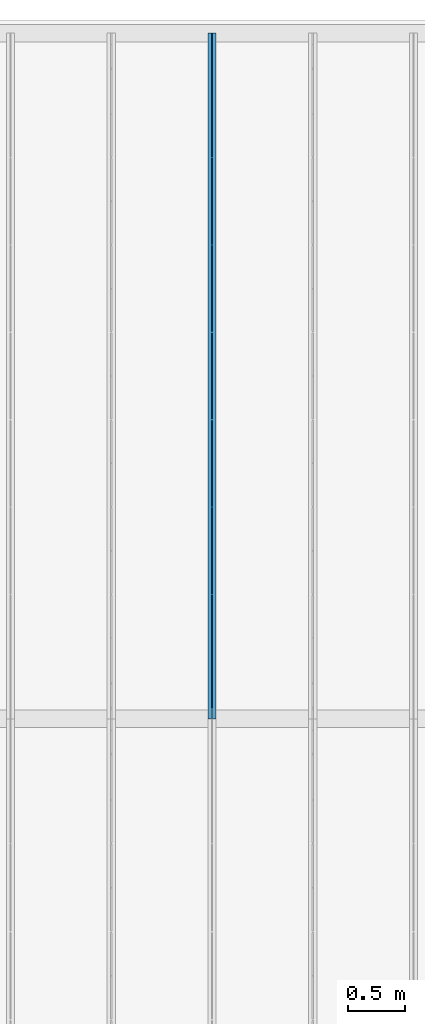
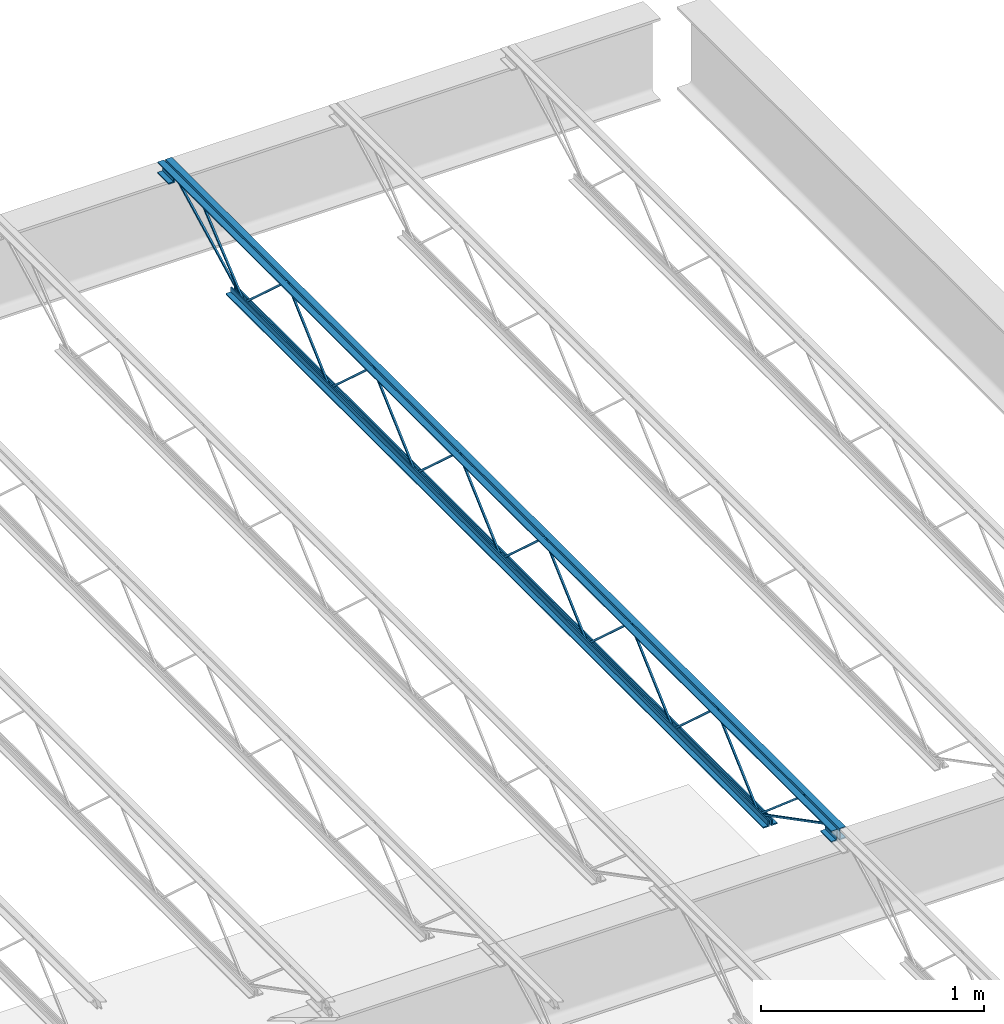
# One storey, part 53 of 75: 1 beam.
"""IFC2X3 building model written with IfcOpenShell, lengths in metres."""

import ifcopenshell
import ifcopenshell.guid

model = None  # the IFC model being written
_history = None  # IfcOwnerHistory: only IFC2X3 demands one
_inside = {}  # id of a spatial element -> (the spatial element, [elements in it])
_under = {}  # id of a project, library or spatial element -> (it, [spatial elements below it])
_declared = {}  # id of a project -> (the project, [libraries it declares])
_typed = {}  # id of a type object -> (the type object, [elements of that type])
_made_of = {}  # id of a material, layer set ... -> (it, [elements and type objects made of it])


def new_model(schema):
    """Start an empty IFC model of exactly this schema.

    Asked for "IFC4X3", IfcOpenShell would pick the latest addendum, in which some entities
    have other attributes; the version numbers below select the first issue.
    IFC2X3 requires an IfcOwnerHistory on every rooted entity: one is made here for all.
    """
    global model, _history
    if schema == "IFC4X3":
        model = ifcopenshell.file(schema_version=(4, 3, 0, 0))
    else:
        model = ifcopenshell.file(schema=schema)
    _inside.clear()
    _under.clear()
    _declared.clear()
    _typed.clear()
    _made_of.clear()
    _history = None
    if model.schema == "IFC2X3":
        org = make("IfcOrganization", Name="unknown")
        user = make(
            "IfcPersonAndOrganization",
            ThePerson=make("IfcPerson", FamilyName="unknown"),
            TheOrganization=org,
        )
        app = make(
            "IfcApplication",
            ApplicationDeveloper=org,
            Version="unknown",
            ApplicationFullName="unknown",
            ApplicationIdentifier="unknown",
        )
        _history = make(
            "IfcOwnerHistory",
            OwningUser=user,
            OwningApplication=app,
            ChangeAction="ADDED",
            CreationDate=0,
        )
    return model


def make(cls, **values):
    """One entity of the class cls with the attributes given. An attribute that is None is left unset."""
    return model.create_entity(
        cls, **{name: value for name, value in values.items() if value is not None}
    )


def entity(cls, *values):
    """Any entity or typed value of the class cls, its attributes in the order of the schema. None: left unset."""
    e = model.create_entity(cls)
    for i, value in enumerate(values):
        if value is not None:
            e[i] = value
    return e


def rooted(cls, **values):
    """An entity with a GlobalId (a new one), such as an element, a storey or a relation."""
    return make(cls, GlobalId=ifcopenshell.guid.new(), OwnerHistory=_history, **values)


def si_unit(unit_type, name, prefix=None):
    """IfcSIUnit, for example si_unit("LENGTHUNIT", "METRE", prefix="MILLI")."""
    return make("IfcSIUnit", UnitType=unit_type, Prefix=prefix, Name=name)


def converted_unit(unit_type, name, factor, base, dimensions=None, offset=None):
    """IfcConversionBasedUnit, such as the inch: factor (a typed value) times the base unit."""
    return make(
        "IfcConversionBasedUnit"
        if offset is None
        else "IfcConversionBasedUnitWithOffset",
        ConversionOffset=offset,
        Dimensions=None
        if dimensions is None
        else entity("IfcDimensionalExponents", *dimensions),
        UnitType=unit_type,
        Name=name,
        ConversionFactor=make(
            "IfcMeasureWithUnit", ValueComponent=factor, UnitComponent=base
        ),
    )


def assignment(units):
    """IfcUnitAssignment: the units of a project."""
    return None if units is None else make("IfcUnitAssignment", Units=units)


def point(xyz):
    """IfcCartesianPoint."""
    return None if xyz is None else make("IfcCartesianPoint", Coordinates=xyz)


def direction(xyz):
    """IfcDirection."""
    return None if xyz is None else make("IfcDirection", DirectionRatios=xyz)


def frame(location, z_axis=None, x_axis=None):
    """IfcAxis2Placement3D, a coordinate frame: its origin and axes. An axis left out is left unset."""
    return make(
        "IfcAxis2Placement3D",
        Location=point(location),
        Axis=direction(z_axis),
        RefDirection=direction(x_axis),
    )


def origin():
    """The frame at (0, 0, 0) with its axes left unset."""
    return frame((0.0, 0.0, 0.0))


def place(relative_to, where):
    """IfcLocalPlacement: puts the frame where relative to a parent placement (None: the world)."""
    return make(
        "IfcLocalPlacement", PlacementRelTo=relative_to, RelativePlacement=where
    )


def context(
    kind, dimensions, precision=None, world=None, true_north=None, identifier=None
):
    """IfcGeometricRepresentationContext, for example the 3D "Model" context."""
    return make(
        "IfcGeometricRepresentationContext",
        ContextIdentifier=identifier,
        ContextType=kind,
        CoordinateSpaceDimension=dimensions,
        Precision=precision,
        WorldCoordinateSystem=world,
        TrueNorth=true_north,
    )


def project(units=None, contexts=None):
    """IfcProject with its units and contexts."""
    return rooted(
        "IfcProject",
        Name="project",
        RepresentationContexts=contexts,
        UnitsInContext=assignment(units),
    )


def spatial(cls, under=None, at=None, **own):
    """A site, building, storey or space (cls), placed at a placement, below another one or the project."""
    s = rooted(cls, ObjectPlacement=at, **own)
    if under is not None:
        _under.setdefault(under.id(), (under, []))[1].append(s)
    return s


def faces_of(points, faces, orient=None, outer=None):
    """IfcFace entities. A face is a list of loops; a loop is a list of indices into points, from 0.

    orient and outer hold one flag for each loop. By default every Orientation is true, the
    first loop of a face is its IfcFaceOuterBound and the others are IfcFaceBound.
    """
    made = []
    for i, loops in enumerate(faces):
        bounds = []
        for j, loop in enumerate(loops):
            is_outer = j == 0 if outer is None else outer[i][j]
            bounds.append(
                make(
                    "IfcFaceOuterBound" if is_outer else "IfcFaceBound",
                    Bound=make("IfcPolyLoop", Polygon=[points[k] for k in loop]),
                    Orientation=True if orient is None else orient[i][j],
                )
            )
        made.append(make("IfcFace", Bounds=bounds))
    return made


def face_set(faces, orient=None, outer=None):
    """The faces of one IfcConnectedFaceSet. surface_model builds it on its shared points."""
    return ("IfcConnectedFaceSet", faces, orient, outer)


def surface_model(cls, points, shells):
    """IfcFaceBasedSurfaceModel or IfcShellBasedSurfaceModel (cls): surfaces that need not close."""
    shared = [point(p) for p in points]
    made = [make(c, CfsFaces=faces_of(shared, fs, o, b)) for c, fs, o, b in shells]
    if cls == "IfcFaceBasedSurfaceModel":
        return make(cls, FbsmFaces=made)
    return make(cls, SbsmBoundary=made)


def shape(context_of_items, identifier, shape_type, items):
    """IfcShapeRepresentation: the items that make up one representation, for example the "Body"."""
    return make(
        "IfcShapeRepresentation",
        ContextOfItems=context_of_items,
        RepresentationIdentifier=identifier,
        RepresentationType=shape_type,
        Items=items,
    )


def made_of(thing, what):
    """Note that an element or type object is made of a material, layer set ...; save() writes the relation."""
    if what is not None:
        _made_of.setdefault(what.id(), (what, []))[1].append(thing)
    return thing


def element(
    cls,
    number,
    at=None,
    inside=None,
    cuts=None,
    type_object=None,
    material=None,
    context=None,
    identifier="Body",
    shape_type=None,
    held_by="IfcProductDefinitionShape",
    body=None,
    shapes=None,
    **own,
):
    """One element of the class cls, such as IfcWall. Its Tag is "e" and its number.

    at: its placement. inside: the storey or other place that contains it. cuts: it is an
    opening in that element (IfcRelVoidsElement). A single representation is given by context,
    identifier, shape_type and body (its items); several are given by shapes. held_by: the class
    of the entity that holds the representations. save() writes the other relations.
    """
    e = rooted(cls, Tag="e%d" % number, ObjectPlacement=at, **own)
    if body is not None:
        shapes = [shape(context, identifier, shape_type, body)]
    if shapes is not None:
        e.Representation = make(held_by, Representations=shapes)
    if inside is not None:
        _inside.setdefault(inside.id(), (inside, []))[1].append(e)
    if cuts is not None:
        rooted(
            "IfcRelVoidsElement", RelatingBuildingElement=cuts, RelatedOpeningElement=e
        )
    if type_object is not None:
        _typed.setdefault(type_object.id(), (type_object, []))[1].append(e)
    return made_of(e, material)


def aggregate(whole, parts):
    """IfcRelAggregates: a whole, such as a stair, and the parts it consists of."""
    return rooted("IfcRelAggregates", RelatingObject=whole, RelatedObjects=parts)


def save(model, path):
    """Write the relations noted so far, then the file.

    IfcRelAggregates (storeys below a building ...), IfcRelContainedInSpatialStructure (elements
    in a storey), IfcRelDefinesByType, IfcRelAssociatesMaterial and IfcRelDeclares: one each for
    every whole, place, type object, material and project.
    """
    for whole, parts in _under.values():
        aggregate(whole, parts)
    for where, things in _inside.values():
        rooted(
            "IfcRelContainedInSpatialStructure",
            RelatedElements=things,
            RelatingStructure=where,
        )
    for kind, things in _typed.values():
        rooted("IfcRelDefinesByType", RelatedObjects=things, RelatingType=kind)
    for what, things in _made_of.values():
        rooted("IfcRelAssociatesMaterial", RelatedObjects=things, RelatingMaterial=what)
    for by, libraries in _declared.values():
        rooted("IfcRelDeclares", RelatingContext=by, RelatedDefinitions=libraries)
    model.write(path)


model = new_model("IFC2X3")

# Units and contexts
model_context = context("Model", 3, precision=1e-09, world=origin())
plan_context = context("Plan", 3, precision=1e-09, world=origin())
ifc_project = project(units=[si_unit("LENGTHUNIT", "METRE"), si_unit("AREAUNIT", "SQUARE_METRE"), si_unit("VOLUMEUNIT", "CUBIC_METRE"), converted_unit("PLANEANGLEUNIT", "DEGREE", entity("IfcRatioMeasure", 0.01745329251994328), si_unit("PLANEANGLEUNIT", "RADIAN"), dimensions=[0, 0, 0, 0, 0, 0, 0]), si_unit("TIMEUNIT", "SECOND")], contexts=[model_context, plan_context])

# Site, building, storey
site_placement = place(None, origin())
site = spatial("IfcSite", under=ifc_project, at=site_placement, Name="Default", CompositionType="ELEMENT")
building_placement = place(site_placement, origin())
building = spatial("IfcBuilding", under=site, at=building_placement, CompositionType="ELEMENT")
storey_placement = place(building_placement, origin())
storey = spatial("IfcBuildingStorey", under=building, at=storey_placement, Name="First Floor", CompositionType="ELEMENT", Elevation=-3.531500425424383e-13)

# Beam
beam_placement = place(storey_placement, frame((-29.14299999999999, 50.09000000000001, 4.112000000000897), z_axis=(0.0, 0.0, 1.0), x_axis=(-1.0, 0.0, 0.0)))
element("IfcBeam", 1, at=beam_placement, inside=storey, Name="M_K-Series Bar Joist-Rod Web:14K1:14K1", ObjectType="M_K-Series Bar Joist-Rod Web:14K1", context=model_context, shape_type="SurfaceModel", body=[
    surface_model("IfcFaceBasedSurfaceModel", [(-0.03200000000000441, -2.254000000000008, 0.01110000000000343), (-0.04150000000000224, -2.254000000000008, 0.01110000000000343), (-0.04150000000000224, -2.254000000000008, 0.001600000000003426), (-0.03200000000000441, -2.254000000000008, 0.001600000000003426), (-0.04150000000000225, -2.252655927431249, 0.01110000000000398), (-0.03200000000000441, -2.252655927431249, 0.01110000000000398), (-0.04150000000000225, -2.248994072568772, 0.001600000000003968), (-0.04150000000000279, -1.869844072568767, 0.3449000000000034), (-0.0415000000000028, -1.86715592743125, 0.3449000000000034), (-0.04149999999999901, -1.48800592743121, 0.001600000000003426), (-0.04149999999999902, -1.483000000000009, 0.001600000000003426), (-0.04150000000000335, -1.483000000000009, 0.01110000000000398), (-0.04150000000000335, -1.484344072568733, 0.01110000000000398), (-0.04150000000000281, -1.863494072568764, 0.3544000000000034), (-0.04150000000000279, -1.873505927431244, 0.3544000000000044), (-0.03200000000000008, -2.248994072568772, 0.001600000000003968), (-0.03200000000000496, -1.869844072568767, 0.3449000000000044), (-0.03200000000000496, -1.86715592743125, 0.3449000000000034), (-0.0320000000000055, -1.48800592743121, 0.001600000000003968), (-0.03200000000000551, -1.483000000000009, 0.001600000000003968), (-0.03200000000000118, -1.483000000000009, 0.01110000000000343), (-0.03200000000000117, -1.484344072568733, 0.01110000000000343), (-0.03200000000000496, -1.863494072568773, 0.3544000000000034), (-0.03200000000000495, -1.873505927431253, 0.3544000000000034), (-0.0320000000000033, -3.025000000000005, 0.01110000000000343), (-0.04150000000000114, -3.025000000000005, 0.01110000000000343), (-0.04150000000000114, -3.025000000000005, 0.001600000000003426), (-0.0320000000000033, -3.025000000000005, 0.001600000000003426), (-0.04150000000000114, -3.023655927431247, 0.01110000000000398), (-0.0320000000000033, -3.023655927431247, 0.01110000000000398), (-0.04150000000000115, -3.01999407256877, 0.001600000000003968), (-0.04150000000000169, -2.640844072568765, 0.3449000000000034), (-0.04150000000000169, -2.638155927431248, 0.3449000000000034), (-0.04150000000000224, -2.259005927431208, 0.001600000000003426), (-0.04150000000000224, -2.254000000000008, 0.01110000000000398), (-0.04150000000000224, -2.255344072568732, 0.01110000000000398), (-0.0415000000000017, -2.634494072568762, 0.3544000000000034), (-0.04150000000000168, -2.644505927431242, 0.3544000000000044), (-0.03199999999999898, -3.01999407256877, 0.001600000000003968), (-0.03200000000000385, -2.640844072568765, 0.3449000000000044), (-0.03200000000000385, -2.638155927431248, 0.3449000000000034), (-0.03200000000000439, -2.259005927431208, 0.001600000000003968), (-0.03200000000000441, -2.254000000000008, 0.001600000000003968), (-0.0320000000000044, -2.255344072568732, 0.01110000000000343), (-0.03200000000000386, -2.634494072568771, 0.3544000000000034), (-0.03200000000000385, -2.644505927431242, 0.3544000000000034), (-0.03200000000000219, -3.796000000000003, 0.01110000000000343), (-0.04150000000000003, -3.796000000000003, 0.01110000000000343), (-0.04150000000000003, -3.796000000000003, 0.001600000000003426), (-0.03200000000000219, -3.796000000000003, 0.001600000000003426), (-0.04150000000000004, -3.794655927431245, 0.01110000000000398), (-0.03200000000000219, -3.794655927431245, 0.01110000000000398), (-0.04150000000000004, -3.790994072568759, 0.001600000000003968), (-0.04150000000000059, -3.411844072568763, 0.3449000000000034), (-0.04150000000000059, -3.409155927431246, 0.3449000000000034), (-0.04150000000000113, -3.030005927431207, 0.001600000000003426), (-0.04150000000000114, -3.025000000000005, 0.01110000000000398), (-0.04150000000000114, -3.026344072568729, 0.01110000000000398), (-0.0415000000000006, -3.40549407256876, 0.3544000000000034), (-0.04150000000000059, -3.41550592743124, 0.3544000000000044), (-0.03199999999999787, -3.790994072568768, 0.001600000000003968), (-0.03200000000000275, -3.411844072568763, 0.3449000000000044), (-0.03200000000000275, -3.409155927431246, 0.3449000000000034), (-0.03200000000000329, -3.030005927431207, 0.001600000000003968), (-0.0320000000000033, -3.025000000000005, 0.001600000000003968), (-0.0320000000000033, -3.026344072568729, 0.01110000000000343), (-0.03200000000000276, -3.40549407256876, 0.3544000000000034), (-0.03200000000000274, -3.41550592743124, 0.3544000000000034), (-0.03200000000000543, -4.567000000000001, 0.01110000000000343), (-0.04150000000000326, -4.567000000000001, 0.01110000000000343), (-0.04150000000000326, -4.567000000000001, 0.001600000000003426), (-0.03200000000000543, -4.567000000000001, 0.001600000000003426), (-0.04150000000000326, -4.565655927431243, 0.01110000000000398), (-0.03200000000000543, -4.565655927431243, 0.01110000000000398), (-0.04150000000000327, -4.561994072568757, 0.001600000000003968), (-0.04149999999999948, -4.182844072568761, 0.3449000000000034), (-0.04149999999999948, -4.180155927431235, 0.3449000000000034), (-0.04150000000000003, -3.801005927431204, 0.001600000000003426), (-0.04150000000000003, -3.795999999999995, 0.001600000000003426), (-0.04150000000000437, -3.796000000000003, 0.01110000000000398), (-0.04150000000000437, -3.797344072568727, 0.01110000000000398), (-0.04150000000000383, -4.176494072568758, 0.3544000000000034), (-0.04150000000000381, -4.186505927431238, 0.3544000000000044), (-0.0320000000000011, -4.561994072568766, 0.001600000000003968), (-0.03200000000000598, -4.182844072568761, 0.3449000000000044), (-0.03200000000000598, -4.180155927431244, 0.3449000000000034), (-0.03200000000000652, -3.801005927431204, 0.001600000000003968), (-0.03200000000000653, -3.796000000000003, 0.001600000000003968), (-0.03200000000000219, -3.795999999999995, 0.01110000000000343), (-0.03200000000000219, -3.797344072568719, 0.01110000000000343), (-0.03200000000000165, -4.176494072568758, 0.3544000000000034), (-0.03200000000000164, -4.186505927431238, 0.3544000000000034), (-0.03200000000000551, -1.483000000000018, 0.01109999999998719), (-0.04150000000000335, -1.483000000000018, 0.01109999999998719), (-0.04150000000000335, -1.483000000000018, 0.001599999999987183), (-0.03200000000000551, -1.483000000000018, 0.001599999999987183), (-0.04149999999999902, -1.48165592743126, 0.01109999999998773), (-0.03200000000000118, -1.48165592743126, 0.01109999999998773), (-0.04150000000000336, -1.477994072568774, 0.001599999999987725), (-0.0415000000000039, -1.098844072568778, 0.3448999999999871), (-0.0415000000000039, -1.096155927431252, 0.3448999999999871), (-0.04150000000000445, -0.717005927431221, 0.001599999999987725), (-0.04150000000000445, -0.7120000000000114, 0.001599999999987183), (-0.04150000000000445, -0.7120000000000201, 0.01109999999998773), (-0.04150000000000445, -0.713344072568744, 0.01109999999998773), (-0.04150000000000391, -1.092494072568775, 0.3543999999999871), (-0.04150000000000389, -1.102505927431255, 0.3543999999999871), (-0.03200000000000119, -1.477994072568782, 0.001599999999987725), (-0.03200000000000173, -1.098844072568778, 0.3448999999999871), (-0.03200000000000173, -1.09615592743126, 0.3448999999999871), (-0.03200000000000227, -0.717005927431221, 0.001599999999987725), (-0.03200000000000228, -0.7120000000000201, 0.001599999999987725), (-0.03200000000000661, -0.7120000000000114, 0.01109999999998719), (-0.03200000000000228, -0.7133440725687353, 0.01109999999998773), (-0.03200000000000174, -1.092494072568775, 0.3543999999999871), (-0.03200000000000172, -1.102505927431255, 0.3543999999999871), (-0.03200000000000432, -5.33799999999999, 0.01110000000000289), (-0.04150000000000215, -5.33799999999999, 0.01110000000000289), (-0.04150000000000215, -5.33799999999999, 0.001600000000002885), (-0.03200000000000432, -5.33799999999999, 0.001600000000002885), (-0.04150000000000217, -5.336655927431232, 0.01110000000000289), (-0.03200000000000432, -5.336655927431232, 0.01110000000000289), (-0.04150000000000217, -5.332994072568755, 0.001600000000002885), (-0.04150000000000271, -4.95384407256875, 0.3449000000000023), (-0.04150000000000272, -4.951155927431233, 0.3449000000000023), (-0.04150000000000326, -4.572005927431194, 0.001600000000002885), (-0.04150000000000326, -4.566999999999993, 0.001600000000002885), (-0.04150000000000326, -4.566999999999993, 0.01110000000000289), (-0.04150000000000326, -4.568344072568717, 0.01110000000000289), (-0.04150000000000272, -4.947494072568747, 0.3544000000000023), (-0.04150000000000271, -4.957505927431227, 0.3544000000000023), (-0.03199999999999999, -5.332994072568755, 0.001600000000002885), (-0.03200000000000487, -4.95384407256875, 0.3449000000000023), (-0.03200000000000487, -4.951155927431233, 0.3449000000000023), (-0.03200000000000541, -4.572005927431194, 0.001600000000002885), (-0.03200000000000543, -4.566999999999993, 0.001600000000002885), (-0.03200000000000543, -4.566999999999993, 0.01110000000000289), (-0.03200000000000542, -4.568344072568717, 0.01110000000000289), (-0.03200000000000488, -4.947494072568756, 0.3544000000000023), (-0.03200000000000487, -4.957505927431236, 0.3544000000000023), (-0.04150000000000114, 0.0, 0.3559999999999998), (-0.07350000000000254, 0.0, 0.3559999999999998), (-0.07350000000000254, 0.0, 0.349499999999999), (-0.04799999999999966, 0.0, 0.349499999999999), (-0.04799999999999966, 0.0, 0.3239999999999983), (-0.04150000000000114, 0.0, 0.3239999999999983), (-0.0320000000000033, 0.0, 0.3559999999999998), (-0.0320000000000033, 0.0, 0.3239999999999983), (-0.02550000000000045, 0.0, 0.3239999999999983), (-0.02550000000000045, 0.0, 0.349499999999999), (0.0, 0.0, 0.349499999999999), (0.0, 0.0, 0.3559999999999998), (-0.04150000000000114, -6.049999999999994, 0.3559999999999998), (-0.07350000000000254, -6.049999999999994, 0.3559999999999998), (-0.07350000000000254, -6.049999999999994, 0.349499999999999), (-0.04799999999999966, -6.049999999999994, 0.349499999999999), (-0.04799999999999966, -6.049999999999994, 0.3239999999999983), (-0.04150000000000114, -6.049999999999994, 0.3239999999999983), (-0.0320000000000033, -6.049999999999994, 0.3559999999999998), (-0.0320000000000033, -6.049999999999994, 0.3239999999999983), (-0.02550000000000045, -6.049999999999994, 0.3239999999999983), (-0.02550000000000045, -6.049999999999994, 0.349499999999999), (0.0, -6.049999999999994, 0.349499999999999), (0.0, -6.049999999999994, 0.3559999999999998), (-0.03200000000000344, -5.950000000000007, 0.2924999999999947), (0.0, -5.950000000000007, 0.2924999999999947), (0.0, -5.950000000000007, 0.2989999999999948), (-0.02550000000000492, -5.950000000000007, 0.2989999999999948), (-0.02550000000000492, -5.950000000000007, 0.3239999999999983), (-0.03200000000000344, -5.950000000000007, 0.3239999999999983), (-0.07350000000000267, -5.950000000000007, 0.2924999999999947), (-0.04150000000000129, -5.950000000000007, 0.2924999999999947), (-0.04150000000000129, -5.950000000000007, 0.3239999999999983), (-0.04800000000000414, -5.950000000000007, 0.3239999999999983), (-0.04800000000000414, -5.950000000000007, 0.2989999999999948), (-0.07350000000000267, -5.950000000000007, 0.2989999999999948), (-0.0320000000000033, -6.049999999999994, 0.2924999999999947), (0.0, -6.049999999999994, 0.2924999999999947), (0.0, -6.049999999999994, 0.2989999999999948), (-0.02550000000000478, -6.049999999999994, 0.2989999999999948), (-0.02550000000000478, -6.049999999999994, 0.3239999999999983), (-0.07350000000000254, -6.049999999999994, 0.2924999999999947), (-0.04150000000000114, -6.049999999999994, 0.2924999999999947), (-0.048000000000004, -6.049999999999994, 0.3239999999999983), (-0.048000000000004, -6.049999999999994, 0.2989999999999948), (-0.07350000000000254, -6.049999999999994, 0.2989999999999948), (-0.04150000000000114, 0.0, 0.2924999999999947), (-0.048000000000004, 0.0, 0.3239999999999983), (-0.048000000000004, 0.0, 0.2989999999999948), (-0.07350000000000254, 0.0, 0.2989999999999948), (-0.07350000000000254, 0.0, 0.2924999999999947), (-0.0320000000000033, 0.0, 0.2924999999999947), (0.0, 0.0, 0.2924999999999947), (0.0, 0.0, 0.2989999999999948), (-0.02550000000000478, 0.0, 0.2989999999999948), (-0.02550000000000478, 0.0, 0.3239999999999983), (-0.04150000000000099, -0.0999999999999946, 0.2924999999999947), (-0.04150000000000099, -0.0999999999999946, 0.3239999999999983), (-0.04800000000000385, -0.0999999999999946, 0.3239999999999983), (-0.04800000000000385, -0.0999999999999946, 0.2989999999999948), (-0.07350000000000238, -0.0999999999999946, 0.2989999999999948), (-0.07350000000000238, -0.0999999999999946, 0.2924999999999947), (-0.03200000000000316, -0.0999999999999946, 0.2924999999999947), (0.0, -0.0999999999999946, 0.2924999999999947), (0.0, -0.0999999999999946, 0.2989999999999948), (-0.02550000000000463, -0.0999999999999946, 0.2989999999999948), (-0.02550000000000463, -0.0999999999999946, 0.3239999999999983), (-0.03200000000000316, -0.0999999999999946, 0.3239999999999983), (-0.04150000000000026, -0.6119999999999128, 0.0), (-0.04150000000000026, -0.6119999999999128, 0.03199999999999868), (-0.04799999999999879, -0.6119999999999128, 0.03199999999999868), (-0.04799999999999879, -0.6119999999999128, 0.006499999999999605), (-0.07350000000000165, -0.6119999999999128, 0.006499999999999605), (-0.07350000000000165, -0.6119999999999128, 0.0), (-0.03200000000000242, -0.6119999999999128, 0.0), (0.0, -0.6119999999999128, 0.0), (0.0, -0.6119999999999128, 0.006499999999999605), (-0.02549999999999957, -0.6119999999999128, 0.006499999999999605), (-0.02549999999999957, -0.6119999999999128, 0.03199999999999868), (-0.03200000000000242, -0.6119999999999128, 0.03199999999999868), (-0.04150000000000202, -5.437999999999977, 0.0), (-0.04150000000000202, -5.437999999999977, 0.03199999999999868), (-0.04800000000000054, -5.437999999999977, 0.03199999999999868), (-0.04800000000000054, -5.437999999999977, 0.006499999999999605), (-0.07350000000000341, -5.437999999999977, 0.006499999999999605), (-0.07350000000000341, -5.437999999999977, 0.0), (-0.03200000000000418, -5.437999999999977, 0.0), (0.0, -5.437999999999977, 0.0), (0.0, -5.437999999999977, 0.006499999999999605), (-0.02550000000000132, -5.437999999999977, 0.006499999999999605), (-0.02550000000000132, -5.437999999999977, 0.03199999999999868), (-0.03200000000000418, -5.437999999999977, 0.03199999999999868), (-0.03200000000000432, -5.335811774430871, 0.01056594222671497), (-0.04150000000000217, -5.335811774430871, 0.01056594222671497), (-0.04150000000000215, -5.34018822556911, 0.002134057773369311), (-0.03200000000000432, -5.34018822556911, 0.002134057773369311), (-0.03200000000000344, -5.948840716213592, 0.3287499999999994), (-0.0320000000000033, -6.049999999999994, 0.3287499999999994), (-0.0320000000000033, -6.049999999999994, 0.3192499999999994), (-0.03200000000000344, -5.951159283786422, 0.3192499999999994), (-0.04150000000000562, -5.951159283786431, 0.3192499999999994), (-0.04150000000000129, -5.948840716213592, 0.3287499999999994), (-0.04150000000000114, -6.049999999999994, 0.3287499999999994), (-0.04150000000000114, -6.049999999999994, 0.3192499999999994), (-0.03200000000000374, -5.743457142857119, 0.341700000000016), (-0.04150000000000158, -5.743457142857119, 0.341700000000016), (-0.04150000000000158, -5.743457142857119, 0.332200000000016), (-0.03200000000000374, -5.743457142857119, 0.332200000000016), (-0.0415000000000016, -5.729024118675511, 0.341700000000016), (-0.03200000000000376, -5.729024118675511, 0.341700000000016), (-0.0415000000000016, -5.732490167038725, 0.332200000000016), (-0.04150000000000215, -5.341058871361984, 0.002716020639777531), (-0.04150000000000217, -5.334941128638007, 0.009983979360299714), (-0.03199999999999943, -5.732490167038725, 0.332200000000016), (-0.03200000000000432, -5.341058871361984, 0.002716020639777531), (-0.03200000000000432, -5.334941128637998, 0.009983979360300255), (-0.03200000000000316, -0.09781177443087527, 0.3197840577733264), (-0.03200000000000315, -0.1021882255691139, 0.3282159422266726), (-0.04150000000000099, -0.1021882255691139, 0.3282159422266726), (-0.04150000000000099, -0.09781177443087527, 0.3197840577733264), (-0.03200000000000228, -0.7098117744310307, 0.002134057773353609), (-0.03200000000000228, -0.7141882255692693, 0.01056594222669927), (-0.04150000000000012, -0.7141882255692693, 0.01056594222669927), (-0.04150000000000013, -0.7098117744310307, 0.002134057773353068), (-0.03200000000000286, -0.3088922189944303, 0.3460454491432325), (-0.03200000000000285, -0.3150792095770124, 0.3532545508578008), (-0.04150000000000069, -0.3150792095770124, 0.3532545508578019), (-0.0415000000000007, -0.3088922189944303, 0.3460454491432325), (-0.03200000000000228, -0.7089065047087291, 0.002745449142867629), (-0.03200000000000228, -0.715093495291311, 0.009954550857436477), (-0.04150000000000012, -0.715093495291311, 0.009954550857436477), (-0.04150000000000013, -0.7089065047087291, 0.002745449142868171)], [face_set([[[0, 1, 2, 3]], [[1, 4, 5, 0]], [[2, 6, 7, 8, 9, 10, 11, 12, 13, 14, 4, 1]], [[3, 2, 6, 15]], [[0, 3, 15, 16, 17, 18, 19, 20, 21, 22, 23, 5]], [[4, 5, 23, 14]], [[15, 16, 7, 6]], [[14, 13, 22, 23]], [[16, 7, 8, 17]], [[13, 12, 21, 22]], [[17, 8, 9, 18]], [[20, 11, 10, 19]], [[12, 11, 20, 21]], [[18, 9, 10, 19]]]), face_set([[[24, 25, 26, 27]], [[25, 28, 29, 24]], [[26, 30, 31, 32, 33, 2, 34, 35, 36, 37, 28, 25]], [[27, 26, 30, 38]], [[24, 27, 38, 39, 40, 41, 42, 0, 43, 44, 45, 29]], [[28, 29, 45, 37]], [[38, 39, 31, 30]], [[37, 36, 44, 45]], [[39, 31, 32, 40]], [[36, 35, 43, 44]], [[40, 32, 33, 41]], [[0, 34, 2, 42]], [[35, 34, 0, 43]], [[41, 33, 2, 42]]]), face_set([[[46, 47, 48, 49]], [[47, 50, 51, 46]], [[48, 52, 53, 54, 55, 26, 56, 57, 58, 59, 50, 47]], [[49, 48, 52, 60]], [[46, 49, 60, 61, 62, 63, 64, 24, 65, 66, 67, 51]], [[50, 51, 67, 59]], [[60, 61, 53, 52]], [[59, 58, 66, 67]], [[61, 53, 54, 62]], [[58, 57, 65, 66]], [[62, 54, 55, 63]], [[24, 56, 26, 64]], [[57, 56, 24, 65]], [[63, 55, 26, 64]]]), face_set([[[68, 69, 70, 71]], [[69, 72, 73, 68]], [[70, 74, 75, 76, 77, 78, 79, 80, 81, 82, 72, 69]], [[71, 70, 74, 83]], [[68, 71, 83, 84, 85, 86, 87, 88, 89, 90, 91, 73]], [[72, 73, 91, 82]], [[83, 84, 75, 74]], [[82, 81, 90, 91]], [[84, 75, 76, 85]], [[81, 80, 89, 90]], [[85, 76, 77, 86]], [[88, 79, 78, 87]], [[80, 79, 88, 89]], [[86, 77, 78, 87]]]), face_set([[[92, 93, 94, 95]], [[93, 96, 97, 92]], [[94, 98, 99, 100, 101, 102, 103, 104, 105, 106, 96, 93]], [[95, 94, 98, 107]], [[92, 95, 107, 108, 109, 110, 111, 112, 113, 114, 115, 97]], [[96, 97, 115, 106]], [[107, 108, 99, 98]], [[106, 105, 114, 115]], [[108, 99, 100, 109]], [[105, 104, 113, 114]], [[109, 100, 101, 110]], [[112, 103, 102, 111]], [[104, 103, 112, 113]], [[110, 101, 102, 111]]]), face_set([[[116, 117, 118, 119]], [[117, 120, 121, 116]], [[118, 122, 123, 124, 125, 126, 127, 128, 129, 130, 120, 117]], [[119, 118, 122, 131]], [[116, 119, 131, 132, 133, 134, 135, 136, 137, 138, 139, 121]], [[120, 121, 139, 130]], [[131, 132, 123, 122]], [[130, 129, 138, 139]], [[132, 123, 124, 133]], [[129, 128, 137, 138]], [[133, 124, 125, 134]], [[136, 127, 126, 135]], [[128, 127, 136, 137]], [[134, 125, 126, 135]]]), face_set([[[140, 141, 142, 143, 144, 145]], [[146, 147, 148, 149, 150, 151]], [[152, 153, 154, 155, 156, 157]], [[158, 159, 160, 161, 162, 163]], [[145, 140, 152, 157]], [[144, 145, 157, 156]], [[143, 155, 156, 144]], [[142, 143, 155, 154]], [[141, 153, 154, 142]], [[140, 152, 153, 141]], [[151, 163, 158, 146]], [[150, 151, 163, 162]], [[149, 150, 162, 161]], [[148, 149, 161, 160]], [[147, 148, 160, 159]], [[146, 158, 159, 147]]]), face_set([[[164, 165, 166, 167, 168, 169]], [[170, 171, 172, 173, 174, 175]], [[176, 177, 178, 179, 180, 159]], [[181, 182, 157, 183, 184, 185]], [[169, 159, 176, 164]], [[168, 180, 159, 169]], [[167, 168, 180, 179]], [[166, 178, 179, 167]], [[165, 166, 178, 177]], [[164, 165, 177, 176]], [[175, 185, 181, 170]], [[174, 184, 185, 175]], [[173, 183, 184, 174]], [[172, 157, 183, 173]], [[171, 172, 157, 182]], [[170, 171, 182, 181]]]), face_set([[[186, 145, 187, 188, 189, 190]], [[191, 192, 193, 194, 195, 147]], [[196, 197, 198, 199, 200, 201]], [[202, 203, 204, 205, 206, 207]], [[190, 186, 196, 201]], [[189, 200, 201, 190]], [[188, 199, 200, 189]], [[187, 198, 199, 188]], [[145, 197, 198, 187]], [[186, 145, 197, 196]], [[147, 207, 202, 191]], [[195, 206, 207, 147]], [[194, 195, 206, 205]], [[193, 204, 205, 194]], [[192, 193, 204, 203]], [[191, 192, 203, 202]]]), face_set([[[208, 209, 210, 211, 212, 213]], [[214, 215, 216, 217, 218, 219]], [[220, 221, 222, 223, 224, 225]], [[226, 227, 228, 229, 230, 231]], [[213, 208, 220, 225]], [[212, 224, 225, 213]], [[211, 223, 224, 212]], [[210, 222, 223, 211]], [[209, 221, 222, 210]], [[208, 209, 221, 220]], [[219, 231, 226, 214]], [[218, 230, 231, 219]], [[217, 218, 230, 229]], [[216, 228, 229, 217]], [[215, 216, 228, 227]], [[214, 215, 227, 226]]]), face_set([[[232, 233, 234, 235]], [[235, 232, 236, 237, 238, 239]], [[234, 235, 239, 240]], [[233, 241, 242, 243, 240, 234]], [[232, 236, 241, 233]], [[237, 242, 243, 238]], [[240, 239, 238, 243]], [[236, 237, 242, 241]]]), face_set([[[244, 245, 246, 247]], [[245, 248, 249, 244]], [[246, 250, 251, 252, 248, 245]], [[247, 246, 250, 253]], [[244, 247, 253, 254, 255, 249]], [[255, 252, 251, 254]], [[248, 252, 255, 249]], [[253, 250, 251, 254]]]), face_set([[[256, 257, 258, 259]], [[260, 261, 262, 263]], [[259, 263, 260, 256]], [[258, 262, 263, 259]], [[257, 258, 262, 261]], [[256, 257, 261, 260]]]), face_set([[[264, 265, 266, 267]], [[268, 269, 270, 271]], [[267, 271, 268, 264]], [[266, 270, 271, 267]], [[265, 266, 270, 269]], [[264, 265, 269, 268]]])]),
])

save(model, "model.ifc")
